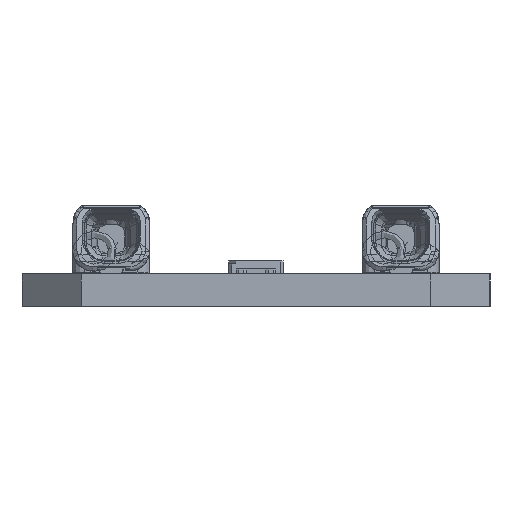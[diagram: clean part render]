
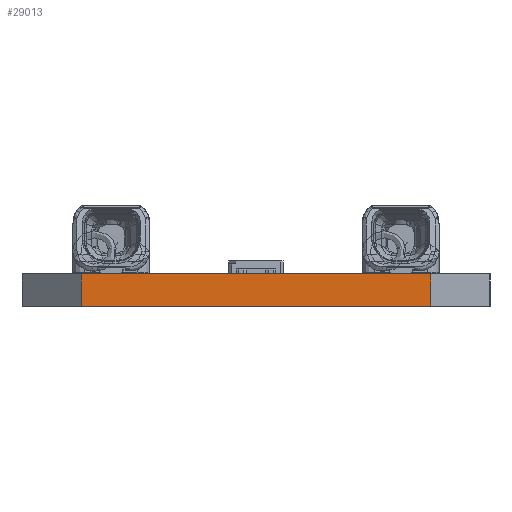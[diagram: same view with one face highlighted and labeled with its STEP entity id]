
A CAD part, left-side view. The second image highlights one B-rep face of the part: STEP entity #29013.
In plain terms, the highlighted planar face has unit normal (-1, 0, 0).
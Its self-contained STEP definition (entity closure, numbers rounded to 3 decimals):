
#4772=DIRECTION('',(0.,1.,0.));
#4773=VECTOR('',#4772,17.6);
#4774=CARTESIAN_POINT('',(-279.5,-8.8,0.));
#4775=LINE('',#4774,#4773);
#5153=DIRECTION('',(0.,0.,1.));
#5154=VECTOR('',#5153,1.65);
#5155=CARTESIAN_POINT('',(-279.5,8.8,0.));
#5156=LINE('',#5155,#5154);
#5157=DIRECTION('',(0.,0.,1.));
#5158=VECTOR('',#5157,1.65);
#5159=CARTESIAN_POINT('',(-279.5,-8.8,0.));
#5160=LINE('',#5159,#5158);
#5161=DIRECTION('',(0.,1.,0.));
#5162=VECTOR('',#5161,17.6);
#5163=CARTESIAN_POINT('',(-279.5,-8.8,1.65));
#5164=LINE('',#5163,#5162);
#22343=CARTESIAN_POINT('',(-279.5,-8.8,0.));
#22344=CARTESIAN_POINT('',(-279.5,-8.8,1.65));
#22345=VERTEX_POINT('',#22343);
#22346=VERTEX_POINT('',#22344);
#22363=CARTESIAN_POINT('',(-279.5,8.8,0.));
#22364=VERTEX_POINT('',#22363);
#22407=CARTESIAN_POINT('',(-279.5,8.8,1.65));
#22408=VERTEX_POINT('',#22407);
#29001=CARTESIAN_POINT('',(-279.5,8.8,1.65));
#29002=DIRECTION('',(-1.,0.,0.));
#29003=DIRECTION('',(0.,0.,1.));
#29004=AXIS2_PLACEMENT_3D('',#29001,#29002,#29003);
#29005=PLANE('',#29004);
#29007=ORIENTED_EDGE('',*,*,#29006,.F.);
#29008=ORIENTED_EDGE('',*,*,#28619,.T.);
#29009=ORIENTED_EDGE('',*,*,#28993,.T.);
#29010=ORIENTED_EDGE('',*,*,#27042,.F.);
#29011=EDGE_LOOP('',(#29007,#29008,#29009,#29010));
#29012=FACE_OUTER_BOUND('',#29011,.F.);
#29013=ADVANCED_FACE('',(#29012),#29005,.T.);
#27042=EDGE_CURVE('',#22346,#22408,#5164,.T.);
#28619=EDGE_CURVE('',#22345,#22364,#4775,.T.);
#28993=EDGE_CURVE('',#22364,#22408,#5156,.T.);
#29006=EDGE_CURVE('',#22345,#22346,#5160,.T.);
